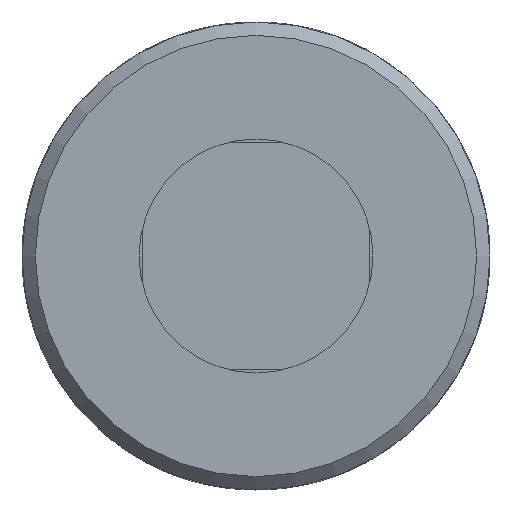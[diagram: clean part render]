
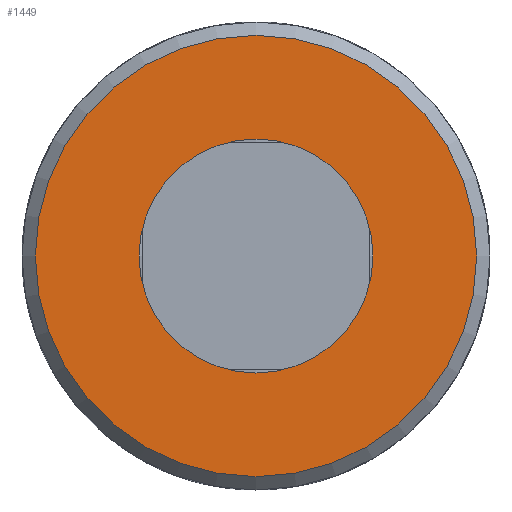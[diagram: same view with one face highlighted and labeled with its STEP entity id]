
A CAD part, front view. The second image highlights one B-rep face of the part: STEP entity #1449.
In plain terms, the highlighted planar face has unit normal (0, -1, 0).
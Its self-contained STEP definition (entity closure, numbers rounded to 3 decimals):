
#270=FACE_BOUND('',#497,.T.);
#372=FACE_OUTER_BOUND('',#496,.T.);
#496=EDGE_LOOP('',(#1234));
#497=EDGE_LOOP('',(#1235));
#577=CIRCLE('',#1589,17.5);
#579=CIRCLE('',#1592,33.);
#702=VERTEX_POINT('',#2893);
#704=VERTEX_POINT('',#2898);
#884=EDGE_CURVE('',#702,#702,#577,.T.);
#886=EDGE_CURVE('',#704,#704,#579,.T.);
#1234=ORIENTED_EDGE('',*,*,#886,.F.);
#1235=ORIENTED_EDGE('',*,*,#884,.T.);
#1371=PLANE('',#1594);
#1449=ADVANCED_FACE('',(#372,#270),#1371,.F.);
#1589=AXIS2_PLACEMENT_3D('',#2894,#1903,#1904);
#1592=AXIS2_PLACEMENT_3D('',#2899,#1909,#1910);
#1594=AXIS2_PLACEMENT_3D('',#3131,#1917,#1918);
#1903=DIRECTION('center_axis',(0.,1.,0.));
#1904=DIRECTION('ref_axis',(-1.,0.,0.));
#1909=DIRECTION('center_axis',(0.,1.,0.));
#1910=DIRECTION('ref_axis',(1.,0.,0.));
#1917=DIRECTION('center_axis',(0.,1.,0.));
#1918=DIRECTION('ref_axis',(0.,0.,1.));
#2893=CARTESIAN_POINT('',(17.5,-87.,0.));
#2894=CARTESIAN_POINT('Origin',(0.,-87.,0.));
#2898=CARTESIAN_POINT('',(-33.,-87.,0.));
#2899=CARTESIAN_POINT('Origin',(0.,-87.,0.));
#3131=CARTESIAN_POINT('Origin',(0.,-87.,0.));
